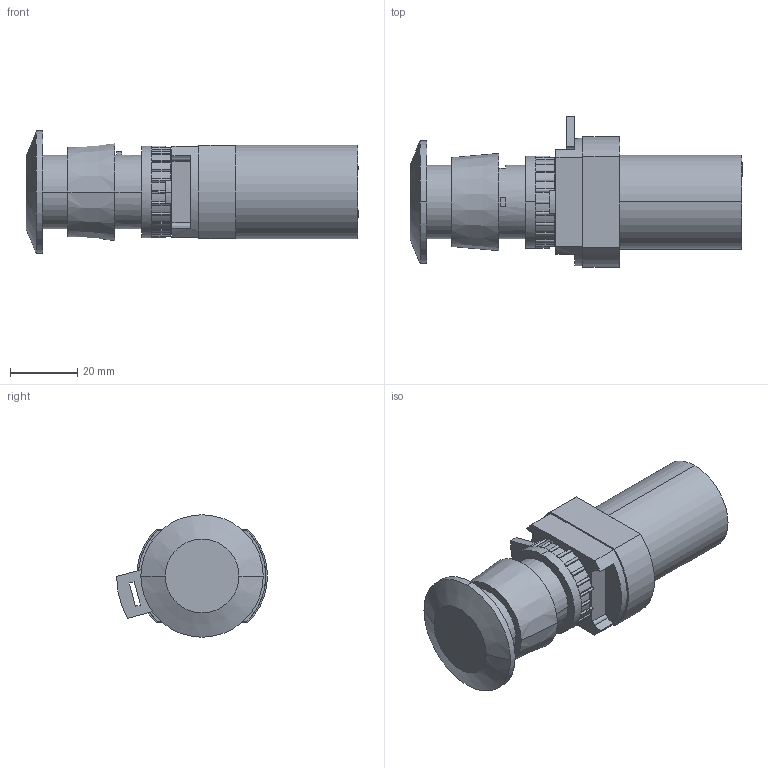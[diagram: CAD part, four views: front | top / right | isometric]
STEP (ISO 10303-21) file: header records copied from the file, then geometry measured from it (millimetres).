
FILE_DESCRIPTION (( 'STEP AP203' ), '1' );
FILE_NAME ('18-T-23-012_T-30-510-Airtec.step', '2006-10-31T13:14:32', ( 'Gustaf Hederström' ), ( 'Cevican AB' ), 'SwSTEP 2.0', 'SolidWorks 2002308', '' );
FILE_SCHEMA (( 'CONFIG_CONTROL_DESIGN' ));
Length unit declared in the file: millimetre
Products named in the file (3): 18-T-23-012_T-30-510-Airtec; T-30-510-Airtec; 18-T-23-012-Airtec
Assembly tree (2 placements, depth 2):
  18-T-23-012_T-30-510-Airtec
    T-30-510-Airtec
    18-T-23-012-Airtec
Bounding box: 99 x 45 x 36.5 mm (x, y, z)
Volume: 60289.5 mm3; surface area: 16237.9 mm2
Topology: 2 solids, 2 shells, 388 faces, 1064 edges, 690 vertices
Faces by surface type: plane 210, cylinder 162, cone 16
Entity records: 12629 total; most frequent: DIRECTION 2246, CARTESIAN_POINT 2137, ORIENTED_EDGE 2108, EDGE_CURVE 1054, AXIS2_PLACEMENT_3D 799, VERTEX_POINT 690, LINE 648, VECTOR 648
